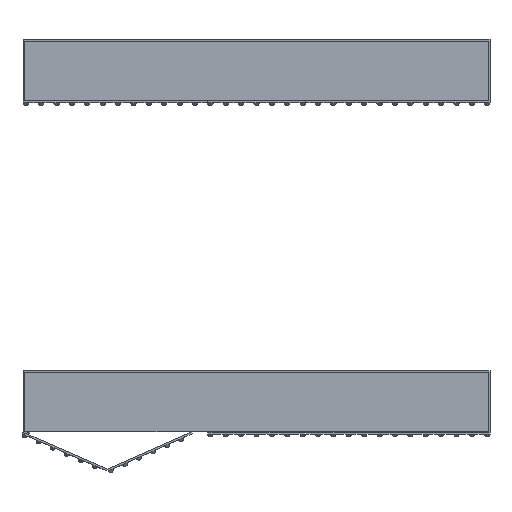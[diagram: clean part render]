
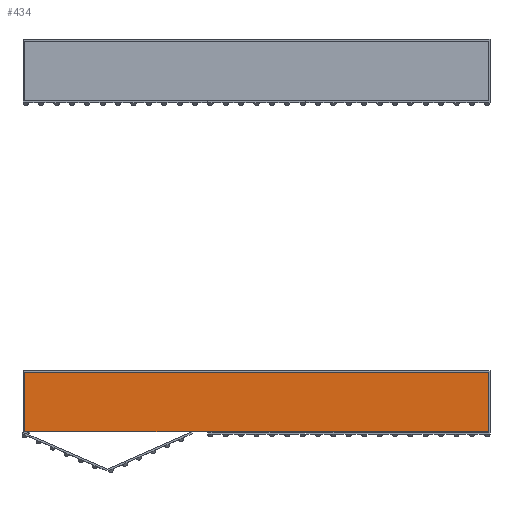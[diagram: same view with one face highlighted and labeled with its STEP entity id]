
A CAD part, top view. The second image highlights one B-rep face of the part: STEP entity #434.
In plain terms, the highlighted planar face has unit normal (0, 0, 1).
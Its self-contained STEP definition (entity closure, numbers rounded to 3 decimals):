
#434=ADVANCED_FACE('',(#990),#7401,.T.);
#990=FACE_OUTER_BOUND('',#1546,.T.);
#1546=EDGE_LOOP('',(#2935,#2936,#2937,#2938));
#2935=ORIENTED_EDGE('',*,*,#4647,.T.);
#2936=ORIENTED_EDGE('',*,*,#4651,.T.);
#2937=ORIENTED_EDGE('',*,*,#4654,.T.);
#2938=ORIENTED_EDGE('',*,*,#4656,.T.);
#4647=EDGE_CURVE('',#6720,#6719,#5970,.T.);
#4651=EDGE_CURVE('',#6719,#6722,#5974,.T.);
#4654=EDGE_CURVE('',#6722,#6724,#5977,.T.);
#4656=EDGE_CURVE('',#6724,#6720,#5979,.T.);
#5970=B_SPLINE_CURVE_WITH_KNOTS('',1,(#12227,#12228),.UNSPECIFIED.,.F.,
 .F.,(2,2),(1.2,242.3),.UNSPECIFIED.);
#5974=B_SPLINE_CURVE_WITH_KNOTS('',1,(#12235,#12236),.UNSPECIFIED.,.F.,
 .F.,(2,2),(242.3,281.1),.UNSPECIFIED.);
#5977=B_SPLINE_CURVE_WITH_KNOTS('',1,(#12241,#12242),.UNSPECIFIED.,.F.,
 .F.,(2,2),(281.1,522.2),.UNSPECIFIED.);
#5979=B_SPLINE_CURVE_WITH_KNOTS('',1,(#12245,#12246),.UNSPECIFIED.,.F.,
 .F.,(2,2),(522.2,561.),.UNSPECIFIED.);
#6719=VERTEX_POINT('',#12217);
#6720=VERTEX_POINT('',#12218);
#6722=VERTEX_POINT('',#12220);
#6724=VERTEX_POINT('',#12222);
#7401=PLANE('',#7823);
#7823=AXIS2_PLACEMENT_3D('',#12214,#8230,$);
#8230=DIRECTION('',(0.,0.,1.));
#12214=CARTESIAN_POINT('',(2151.03,-3165.226,52.));
#12217=CARTESIAN_POINT('',(2452.13,-3165.226,52.));
#12218=CARTESIAN_POINT('',(2151.03,-3165.226,52.));
#12220=CARTESIAN_POINT('',(2452.13,-3126.626,52.));
#12222=CARTESIAN_POINT('',(2151.03,-3126.626,52.));
#12227=CARTESIAN_POINT('',(2151.03,-3165.226,52.));
#12228=CARTESIAN_POINT('',(2452.13,-3165.226,52.));
#12235=CARTESIAN_POINT('',(2452.13,-3165.226,52.));
#12236=CARTESIAN_POINT('',(2452.13,-3126.626,52.));
#12241=CARTESIAN_POINT('',(2452.13,-3126.626,52.));
#12242=CARTESIAN_POINT('',(2151.03,-3126.626,52.));
#12245=CARTESIAN_POINT('',(2151.03,-3126.626,52.));
#12246=CARTESIAN_POINT('',(2151.03,-3165.226,52.));
